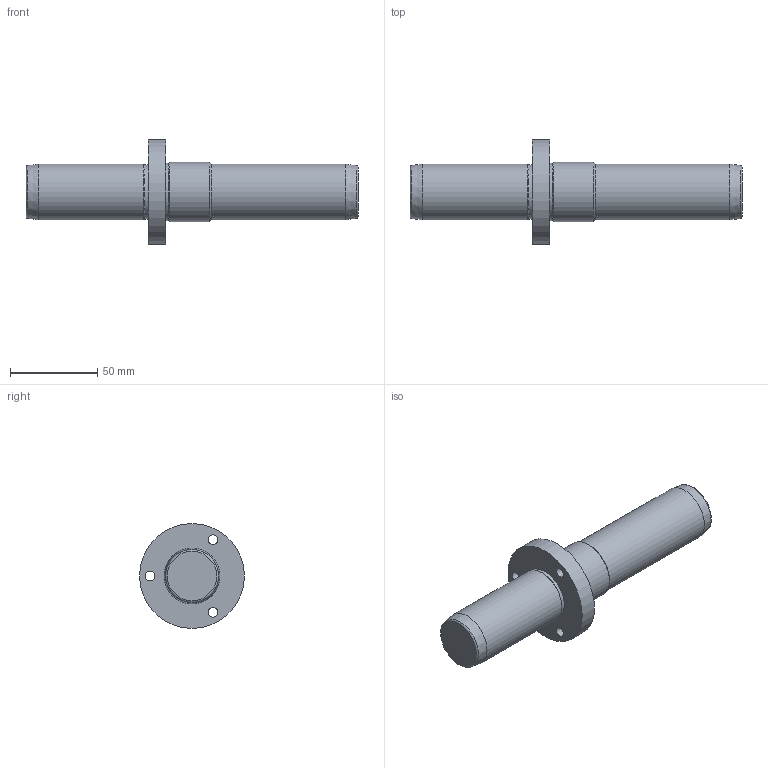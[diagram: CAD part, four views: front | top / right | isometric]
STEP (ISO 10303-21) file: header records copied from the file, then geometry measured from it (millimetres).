
FILE_DESCRIPTION(/* description */ ('Impex Ready, www.impex-ready.pl'),/* implementation_level */ '2;1');
FILE_NAME(/* name */ 'C:\Users\VIKKY\Nextcloud\SM\projekt 10 - części na stronę internetową\Pliki_3D_new\259 CEAS Słup\259_CEAS_STEP\CEAS3280110.ipt.step',/* time_stamp */ '2021-12-06T13:24:17+03:00',/* author */ ('SM'),/* organization */ (''),/* preprocessor_version */ 'ST-DEVELOPER v18.1',/* originating_system */ 'Autodesk Inventor 2021',/* authorisation */ '');
FILE_SCHEMA (('AUTOMOTIVE_DESIGN { 1 0 10303 214 3 1 1 }'));
Length unit declared in the file: millimetre
Products named in the file (1): CEAS3280110
Bounding box: 190 x 60 x 60 mm (x, y, z)
Volume: 173116.9 mm3; surface area: 26203.6 mm2
Topology: 1 solids, 1 shells, 26 faces, 49 edges, 30 vertices
Faces by surface type: cylinder 12, plane 7, cone 5, torus 2
Full cylindrical faces by diameter (mm): 5.5 x3, 10 x3, 31 x1, 32 x2, 33 x1, 34 x1, 60 x1
Entity records: 758 total; most frequent: DIRECTION 135, CARTESIAN_POINT 106, ORIENTED_EDGE 98, AXIS2_PLACEMENT_3D 59, EDGE_CURVE 49, EDGE_LOOP 37, CIRCLE 32, VERTEX_POINT 30
